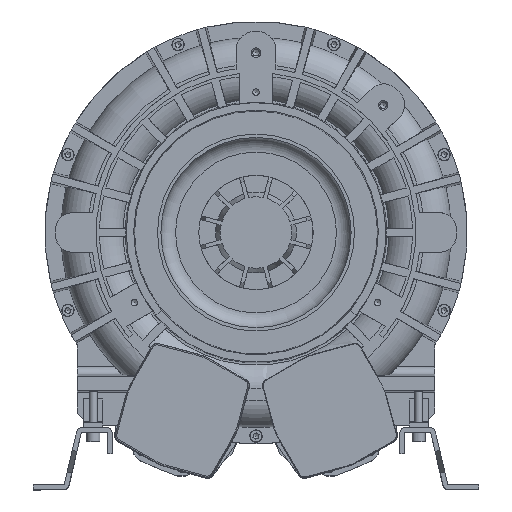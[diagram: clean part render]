
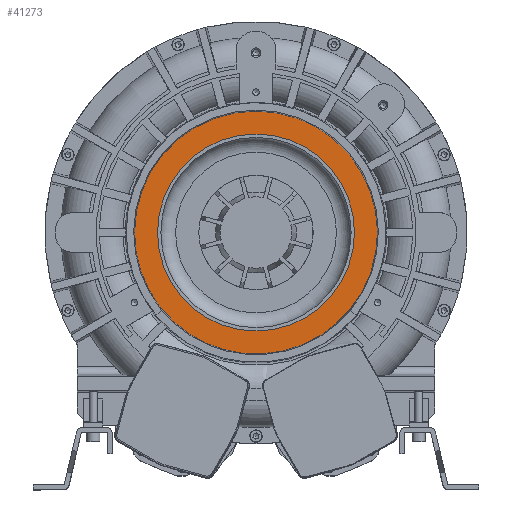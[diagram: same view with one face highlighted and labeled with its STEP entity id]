
A CAD part, top view. The second image highlights one B-rep face of the part: STEP entity #41273.
In plain terms, the highlighted planar face has unit normal (0, 0, 1).
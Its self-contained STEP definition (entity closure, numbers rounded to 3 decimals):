
#10679 = ORIENTED_EDGE ( 'NONE', *, *, #120586, .T. ) ;
#12933 = DIRECTION ( 'NONE',  ( -1., 0., 0. ) ) ;
#13389 = VERTEX_POINT ( 'NONE', #235019 ) ;
#14137 = FACE_OUTER_BOUND ( 'NONE', #41096, .T. ) ;
#41096 = EDGE_LOOP ( 'NONE', ( #10679 ) ) ;
#41273 = ADVANCED_FACE ( 'NONE', ( #198153, #14137 ), #199354, .F. ) ;
#66026 = CARTESIAN_POINT ( 'NONE',  ( 0., 0., 196.5 ) ) ;
#79224 = EDGE_CURVE ( 'NONE', #156583, #156583, #129246, .T. ) ;
#79451 = DIRECTION ( 'NONE',  ( 1., 0., 0. ) ) ;
#85282 = AXIS2_PLACEMENT_3D ( 'NONE', #158802, #191583, #101957 ) ;
#88775 = ORIENTED_EDGE ( 'NONE', *, *, #79224, .F. ) ;
#101957 = DIRECTION ( 'NONE',  ( -1., 0., 0. ) ) ;
#120586 = EDGE_CURVE ( 'NONE', #13389, #13389, #224409, .T. ) ;
#121689 = DIRECTION ( 'NONE',  ( 0., 0., 1. ) ) ;
#129246 = CIRCLE ( 'NONE', #136867, 103.5 ) ;
#136867 = AXIS2_PLACEMENT_3D ( 'NONE', #66026, #121689, #79451 ) ;
#139164 = AXIS2_PLACEMENT_3D ( 'NONE', #179972, #200540, #12933 ) ;
#156583 = VERTEX_POINT ( 'NONE', #215841 ) ;
#158802 = CARTESIAN_POINT ( 'NONE',  ( 0., 0., 196.5 ) ) ;
#179972 = CARTESIAN_POINT ( 'NONE',  ( 0., 0., 196.5 ) ) ;
#191583 = DIRECTION ( 'NONE',  ( 0., 0., 1. ) ) ;
#198153 = FACE_BOUND ( 'NONE', #213906, .T. ) ;
#199354 = PLANE ( 'NONE',  #139164 ) ;
#200540 = DIRECTION ( 'NONE',  ( 0., 0., -1. ) ) ;
#213906 = EDGE_LOOP ( 'NONE', ( #88775 ) ) ;
#215841 = CARTESIAN_POINT ( 'NONE',  ( 103.5, 0., 196.5 ) ) ;
#224409 = CIRCLE ( 'NONE', #85282, 127.694 ) ;
#235019 = CARTESIAN_POINT ( 'NONE',  ( -127.694, 0., 196.5 ) ) ;
